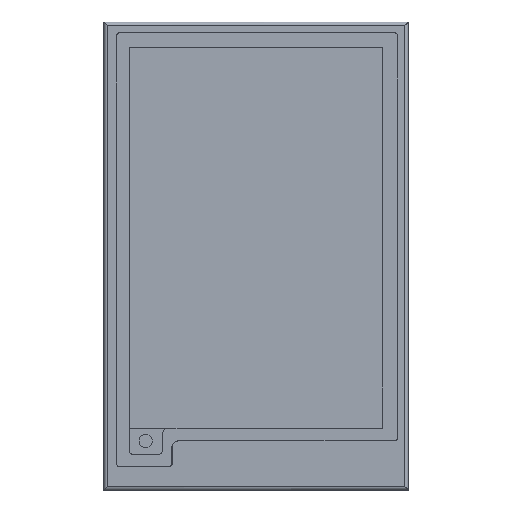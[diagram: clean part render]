
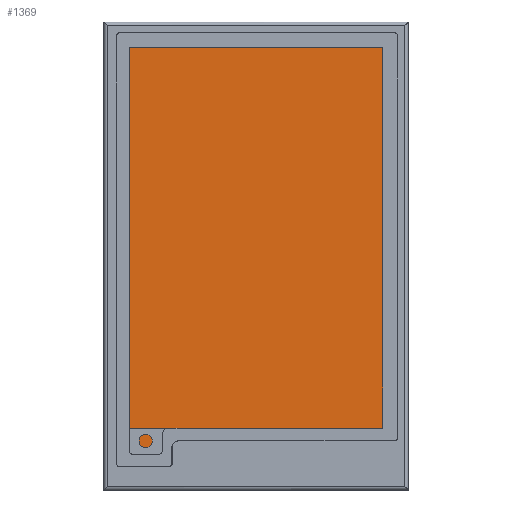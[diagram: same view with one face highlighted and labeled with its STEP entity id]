
A CAD part, top view. The second image highlights one B-rep face of the part: STEP entity #1369.
In plain terms, the highlighted planar face has unit normal (0, 0, 1).
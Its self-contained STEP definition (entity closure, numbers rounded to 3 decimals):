
#4 = DIRECTION ( 'NONE',  ( -1., 0., 0. ) ) ;
#53 = DIRECTION ( 'NONE',  ( -1., 0., 0. ) ) ;
#70 = CARTESIAN_POINT ( 'NONE',  ( 0., -25.894, 1. ) ) ;
#86 = VERTEX_POINT ( 'NONE', #814 ) ;
#112 = EDGE_CURVE ( 'NONE', #227, #177, #766, .T. ) ;
#114 = AXIS2_PLACEMENT_3D ( 'NONE', #1345, #625, #1093 ) ;
#154 = CARTESIAN_POINT ( 'NONE',  ( -14.596, -29.804, 1. ) ) ;
#174 = ORIENTED_EDGE ( 'NONE', *, *, #768, .F. ) ;
#177 = VERTEX_POINT ( 'NONE', #235 ) ;
#178 = LINE ( 'NONE', #893, #1149 ) ;
#189 = DIRECTION ( 'NONE',  ( 1., 0., 0. ) ) ;
#212 = CARTESIAN_POINT ( 'NONE',  ( -18.596, -29.304, 1. ) ) ;
#227 = VERTEX_POINT ( 'NONE', #247 ) ;
#235 = CARTESIAN_POINT ( 'NONE',  ( -19.096, 31.394, 1. ) ) ;
#237 = DIRECTION ( 'NONE',  ( 0., 1., 0. ) ) ;
#247 = CARTESIAN_POINT ( 'NONE',  ( 19.096, 31.394, 1. ) ) ;
#265 = FACE_OUTER_BOUND ( 'NONE', #282, .T. ) ;
#268 = ORIENTED_EDGE ( 'NONE', *, *, #1040, .T. ) ;
#282 = EDGE_LOOP ( 'NONE', ( #1448, #174, #268, #801, #914, #825, #862, #1391, #790 ) ) ;
#284 = VECTOR ( 'NONE', #1118, 1000. ) ;
#286 = VERTEX_POINT ( 'NONE', #1062 ) ;
#309 = CARTESIAN_POINT ( 'NONE',  ( -18.596, -29.804, 1. ) ) ;
#312 = CIRCLE ( 'NONE', #1436, 0.5 ) ;
#336 = VERTEX_POINT ( 'NONE', #968 ) ;
#413 = VERTEX_POINT ( 'NONE', #1347 ) ;
#415 = EDGE_CURVE ( 'NONE', #286, #86, #940, .T. ) ;
#439 = DIRECTION ( 'NONE',  ( 0., 1., 0. ) ) ;
#502 = PLANE ( 'NONE',  #114 ) ;
#507 = CIRCLE ( 'NONE', #628, 1. ) ;
#525 = DIRECTION ( 'NONE',  ( 1., 0., 0. ) ) ;
#531 = DIRECTION ( 'NONE',  ( 0., 0., 1. ) ) ;
#563 = EDGE_CURVE ( 'NONE', #1489, #177, #178, .T. ) ;
#613 = CARTESIAN_POINT ( 'NONE',  ( 0., -29.804, 1. ) ) ;
#625 = DIRECTION ( 'NONE',  ( 0., 0., 1. ) ) ;
#628 = AXIS2_PLACEMENT_3D ( 'NONE', #1277, #1075, #1167 ) ;
#631 = VECTOR ( 'NONE', #4, 1000. ) ;
#647 = EDGE_CURVE ( 'NONE', #413, #86, #507, .T. ) ;
#676 = LINE ( 'NONE', #613, #809 ) ;
#699 = VECTOR ( 'NONE', #237, 1000. ) ;
#718 = LINE ( 'NONE', #918, #699 ) ;
#757 = EDGE_CURVE ( 'NONE', #336, #227, #718, .T. ) ;
#766 = LINE ( 'NONE', #1036, #631 ) ;
#768 = EDGE_CURVE ( 'NONE', #1435, #1485, #676, .T. ) ;
#790 = ORIENTED_EDGE ( 'NONE', *, *, #563, .F. ) ;
#801 = ORIENTED_EDGE ( 'NONE', *, *, #415, .T. ) ;
#809 = VECTOR ( 'NONE', #53, 1000. ) ;
#814 = CARTESIAN_POINT ( 'NONE',  ( -14.096, -26.894, 1. ) ) ;
#825 = ORIENTED_EDGE ( 'NONE', *, *, #955, .F. ) ;
#853 = LINE ( 'NONE', #70, #284 ) ;
#862 = ORIENTED_EDGE ( 'NONE', *, *, #757, .T. ) ;
#893 = CARTESIAN_POINT ( 'NONE',  ( -19.096, 0., 1. ) ) ;
#914 = ORIENTED_EDGE ( 'NONE', *, *, #647, .F. ) ;
#918 = CARTESIAN_POINT ( 'NONE',  ( 19.096, 0., 1. ) ) ;
#940 = LINE ( 'NONE', #979, #1341 ) ;
#955 = EDGE_CURVE ( 'NONE', #336, #413, #853, .T. ) ;
#968 = CARTESIAN_POINT ( 'NONE',  ( 19.096, -25.894, 1. ) ) ;
#979 = CARTESIAN_POINT ( 'NONE',  ( -14.096, 0., 1. ) ) ;
#994 = CARTESIAN_POINT ( 'NONE',  ( -14.596, -29.304, 1. ) ) ;
#1036 = CARTESIAN_POINT ( 'NONE',  ( 0., 31.394, 1. ) ) ;
#1040 = EDGE_CURVE ( 'NONE', #1435, #286, #1106, .T. ) ;
#1062 = CARTESIAN_POINT ( 'NONE',  ( -14.096, -29.304, 1. ) ) ;
#1073 = AXIS2_PLACEMENT_3D ( 'NONE', #994, #531, #189 ) ;
#1075 = DIRECTION ( 'NONE',  ( 0., 0., 1. ) ) ;
#1093 = DIRECTION ( 'NONE',  ( 1., 0., 0. ) ) ;
#1106 = CIRCLE ( 'NONE', #1073, 0.5 ) ;
#1118 = DIRECTION ( 'NONE',  ( -1., 0., 0. ) ) ;
#1149 = VECTOR ( 'NONE', #439, 1000. ) ;
#1167 = DIRECTION ( 'NONE',  ( 1., 0., 0. ) ) ;
#1251 = DIRECTION ( 'NONE',  ( 0., 0., 1. ) ) ;
#1277 = CARTESIAN_POINT ( 'NONE',  ( -13.096, -26.894, 1. ) ) ;
#1341 = VECTOR ( 'NONE', #1472, 1000. ) ;
#1345 = CARTESIAN_POINT ( 'NONE',  ( 0., 0., 1. ) ) ;
#1347 = CARTESIAN_POINT ( 'NONE',  ( -13.096, -25.894, 1. ) ) ;
#1356 = CARTESIAN_POINT ( 'NONE',  ( -19.096, -29.304, 1. ) ) ;
#1369 = ADVANCED_FACE ( 'NONE', ( #265 ), #502, .T. ) ;
#1391 = ORIENTED_EDGE ( 'NONE', *, *, #112, .T. ) ;
#1435 = VERTEX_POINT ( 'NONE', #154 ) ;
#1436 = AXIS2_PLACEMENT_3D ( 'NONE', #212, #1251, #525 ) ;
#1448 = ORIENTED_EDGE ( 'NONE', *, *, #1451, .T. ) ;
#1451 = EDGE_CURVE ( 'NONE', #1489, #1485, #312, .T. ) ;
#1472 = DIRECTION ( 'NONE',  ( 0., 1., 0. ) ) ;
#1485 = VERTEX_POINT ( 'NONE', #309 ) ;
#1489 = VERTEX_POINT ( 'NONE', #1356 ) ;
